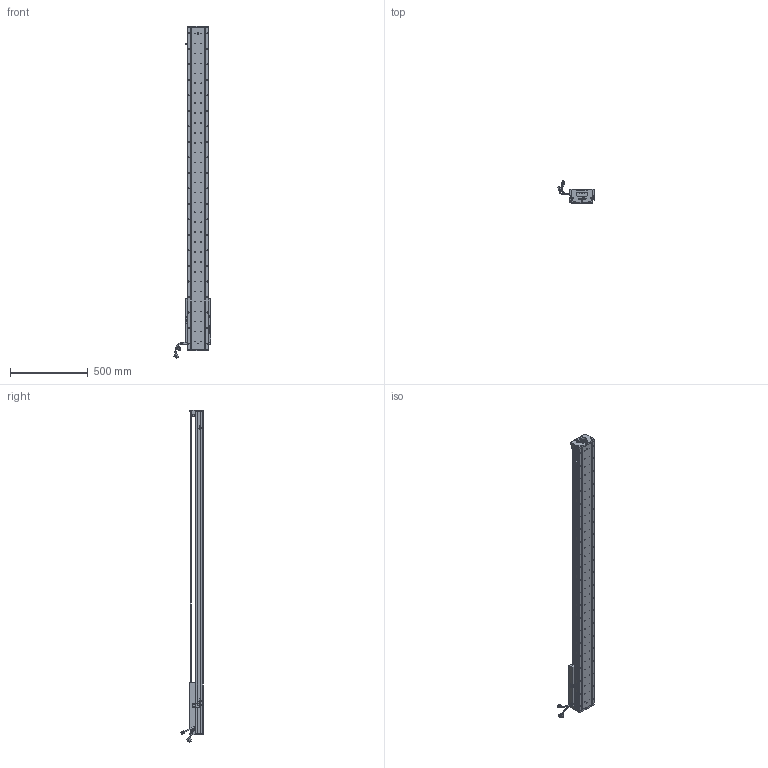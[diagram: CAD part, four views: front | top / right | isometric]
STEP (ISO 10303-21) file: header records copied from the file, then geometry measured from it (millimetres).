
FILE_DESCRIPTION (( 'STEP AP203' ), '1' );
FILE_NAME ('Z4-RY140D-1-L500-B-K.SLDASM_1700.step', '2021-05-17T08:17:17', ( '盈信电脑' ), ( '东莞市道滘镇水果街19号' ), 'SwSTEP 2.0', 'SolidWorks 2016', '' );
FILE_SCHEMA (( 'CONFIG_CONTROL_DESIGN' ));
Length unit declared in the file: millimetre
Products named in the file (36): Z4-RY140-L500直线电机模组底座_1700; SCREW-M1.6-3; COVER; 140-Z-臏賑輸盄裔(21遴); Z4-RY140-L500詩湍100mm遵_1700; SCREW-M1.6-2; SCALE; SCALE-Part-1; SEAL; 榋妏寠巭燃_暯_M2_2; 覜茼ん672; HOLDER0; Z4-RY140D-1-L500-B-K.SLDASM_1700; SCREW-M1.7; PBU_SHEET; 140雄赽晤鎢ん堤盄; Z-RY140感应器672光电感应片; Z4-RY140圉猾敕臏賑輸(21遴); Z-140詩湍傷裔啣; LABEL-Part-1; SCREW-M1.6-1; HARNESS-Part-1; SCALE-Part-2; LABEL; 080黍杅芛假蚾釱21遴; 詩湍狟揤裔; HARNESS; 140蚥薯蝶輸; HARNESS-Part-2; 詩湍奻揤裔; SCREW-M1.6; SEAL-Part-1; COVER-Part-1; SCREW-M1.7-1; SHIELDPLATE; PSLH080_PSLF2
Assembly tree (41 placements, depth 4):
  Z4-RY140D-1-L500-B-K.SLDASM_1700
    Z4-RY140-L500直线电机模组底座_1700
    Z-RY140感应器672光电感应片
    Z4-RY140圉猾敕臏賑輸(21遴)
    覜茼ん672  x3
    Z4-RY140-L500詩湍100mm遵_1700
    PSLH080_PSLF2
      SCALE
        SCALE-Part-1
        SCALE-Part-2
      HARNESS
        HARNESS-Part-1
        HARNESS-Part-2
      LABEL
        LABEL-Part-1
      COVER
        COVER-Part-1
      SEAL
        SEAL-Part-1
      榋妏寠巭燃_暯_M2_2
      SHIELDPLATE
      SCREW-M1.7
      SCREW-M1.7-1
      PBU_SHEET
      SCREW-M1.6
      SCREW-M1.6-1
      SCREW-M1.6-2
      SCREW-M1.6-3
      HOLDER0
    080黍杅芛假蚾釱21遴
    140-Z-臏賑輸盄裔(21遴)
    Z-140詩湍傷裔啣  x2
    詩湍狟揤裔  x2
    詩湍奻揤裔  x2
    140蚥薯蝶輸  x2
    140雄赽晤鎢ん堤盄
Bounding box: 239.84 x 143.88 x 2140.87 mm (x, y, z)
Volume: 7256067 mm3; surface area: 1866534.4 mm2
Topology: 36 solids, 36 shells, 3770 faces, 10176 edges, 6445 vertices
Faces by surface type: cylinder 1978, plane 1300, cone 370, torus 69, bspline 53
Entity records: 117404 total; most frequent: CARTESIAN_POINT 32351, ORIENTED_EDGE 17336, DIRECTION 16312, EDGE_CURVE 8668, AXIS2_PLACEMENT_3D 6054, VERTEX_POINT 5613, LINE 4204, VECTOR 4204
